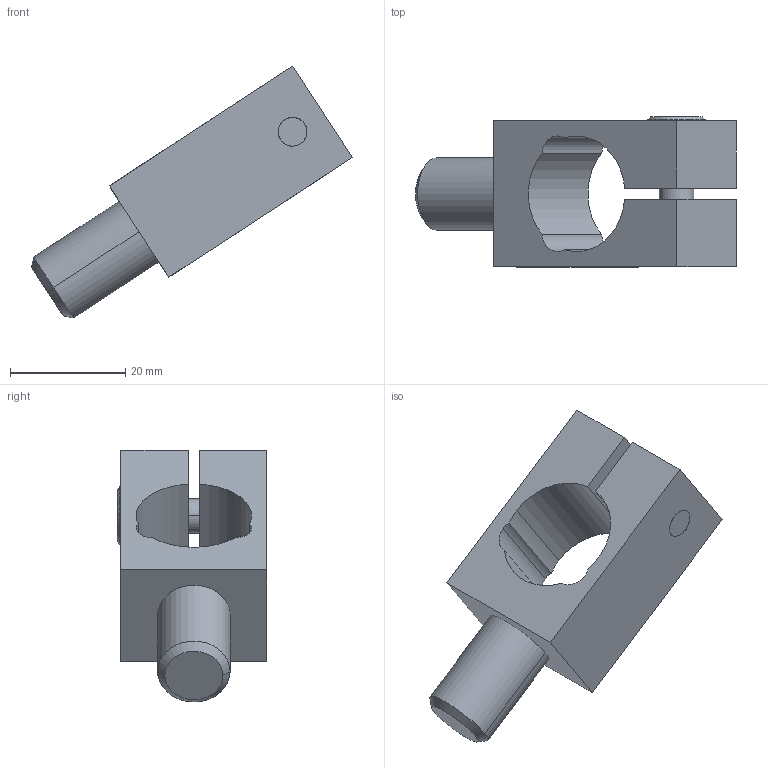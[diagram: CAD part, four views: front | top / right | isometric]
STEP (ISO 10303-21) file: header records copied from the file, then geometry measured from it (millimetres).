
FILE_DESCRIPTION (( 'STEP AP214' ), '1' );
FILE_NAME ('RTI-PGM-GRF-20.STEP', '2013-10-22T14:36:50', ( 'user' ), ( '' ), 'SwSTEP 2.0', 'SolidWorks 2009', '' );
FILE_SCHEMA (( 'AUTOMOTIVE_DESIGN' ));
Length unit declared in the file: inch
Products named in the file (4): M6 S.H.C.S._M6x20mm; M6 WASHER; RTI-PGM-GRF-20
Assembly tree (3 placements, depth 2):
  RTI-PGM-GRF-20
    RTI-PGM-GRF-20
    M6 WASHER
    M6 S.H.C.S._M6x20mm
Bounding box: 55.78 x 26.05 x 43.77 mm (x, y, z)
Volume: 14185.1 mm3; surface area: 7275.2 mm2
Topology: 3 solids, 3 shells, 346 faces, 885 edges, 588 vertices
Faces by surface type: plane 211, bspline 106, cylinder 23, cone 6
Entity records: 20408 total; most frequent: CARTESIAN_POINT 8843, ORIENTED_EDGE 1770, DIRECTION 1217, EDGE_CURVE 885, LINE 621, VECTOR 621, VERTEX_POINT 588, EDGE_LOOP 395
